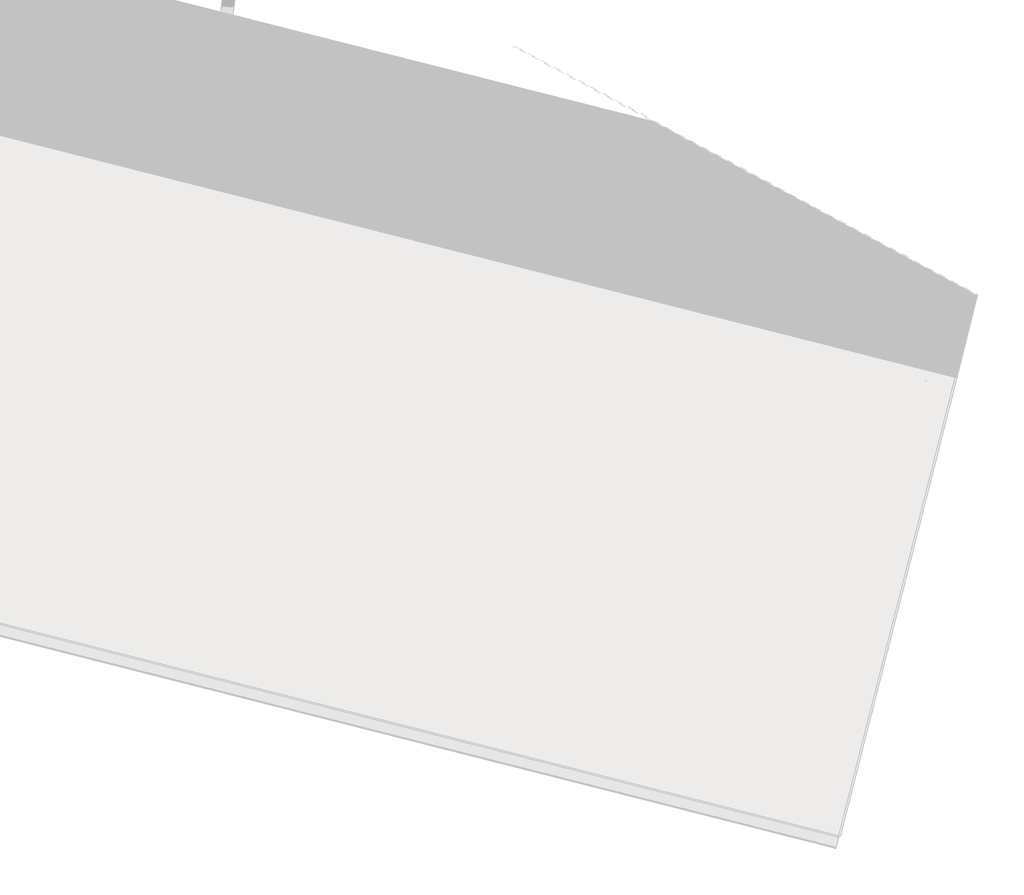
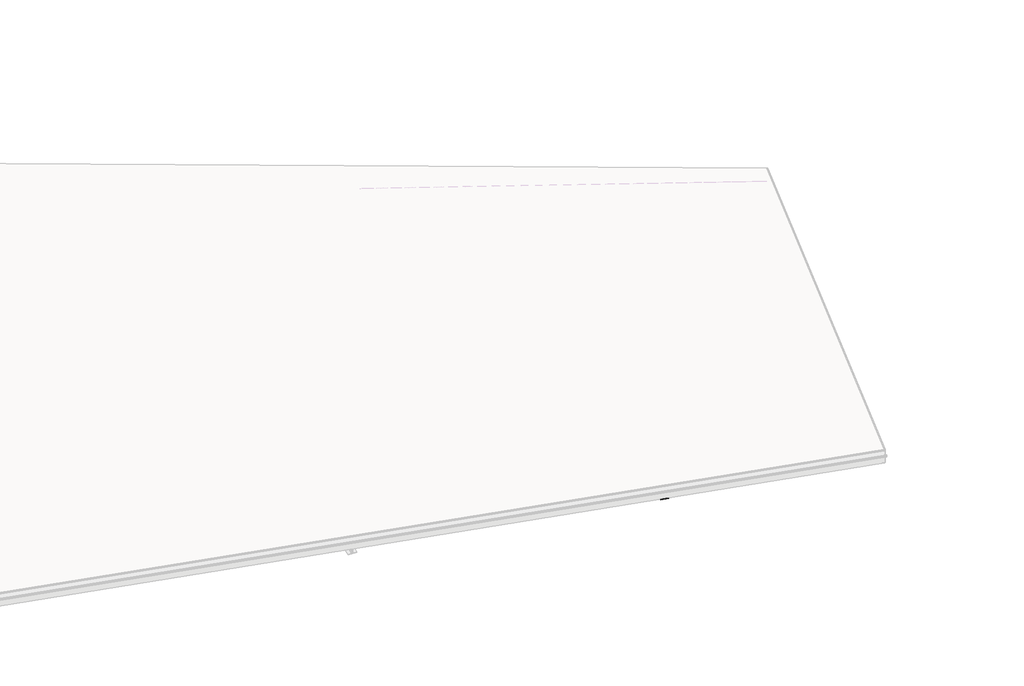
# One storey, part 2 of 10: 6 beams.
"""IFC4 building model written with IfcOpenShell, lengths in millimetres."""

from ifc_helpers import new_model, si_unit, frame, origin, place, context, project, spatial, polyline, circle_curve, ellipse_curve, transform, mapped, element, save
from ifc_brep_helpers import plane_surface, cylinder_surface, revolved_surface, advanced_brep
from components import ipe_ipe360_f2bb99bb

model = new_model("IFC4")

# Units and contexts
model_context = context("Model", 3, world=origin())
ifc_project = project(units=[si_unit("LENGTHUNIT", "METRE", prefix="MILLI")], contexts=[model_context])

# Site, building, storey
site = spatial("IfcSite", under=ifc_project)
building = spatial("IfcBuilding", under=site)
storey = spatial("IfcBuildingStorey", under=building, Name="2 Toiture batiment", Elevation=872910.0)

# Beams
placement = place(None, origin())
element("IfcBeam", 1, ObjectType="IPE : IPE160", at=placement, inside=storey, context=model_context, shape_type="AdvancedBrep", body=[
    advanced_brep(
    [(50448.961994, -4098.9737725, 872985.9251043), (50449.1844592, -4098.099809, 872978.5802627), (50469.2640739, -4019.2268522, 872988.5735489), (50469.0416088, -4020.1008158, 872995.9183904), (50461.8178449, -4048.4758429, 872992.3232448), (50459.3434191, -4058.1955595, 873000.1593361), (50455.5194237, -4073.2182842, 873126.4112065), (50457.4527181, -4065.6244249, 873136.440946), (50464.676482, -4037.2493977, 873140.0360916), (50464.4540168, -4038.1233613, 873147.3809332), (50444.3744021, -4116.996318, 873137.387647), (50444.5968672, -4116.1223545, 873130.0428055), (50451.8206311, -4087.7473274, 873133.6379511), (50454.2950569, -4078.0276108, 873125.8018598), (50458.1190523, -4063.0048861, 872999.5499893), (50456.1857579, -4070.5987454, 872989.5202499), (46577.9110009, -3083.2627786, 872989.5358662), (46570.6872506, -3111.6378092, 872985.9407206), (46579.8442574, -3075.6689096, 872999.5656057), (46654.5159842, -3110.675172, 873125.8171601), (46655.0447687, -3108.5980964, 873108.3611521), (46576.5485784, -3088.6144001, 873108.3611567), (46652.0415287, -3120.394881, 873133.6532514), (46644.8177785, -3148.7699116, 873130.0581057), (46644.5952855, -3149.6438681, 873137.4029473), (46664.6748625, -3070.7709018, 873147.3962334), (46664.8973554, -3069.8969453, 873140.0513919), (46657.6736052, -3098.2719759, 873136.4562463), (46655.7403487, -3105.8658448, 873126.4265068), (46581.0686218, -3070.8595824, 873000.1749524), (46577.7732293, -3083.8039477, 873108.9610475), (46656.2694196, -3103.787644, 873108.9610428), (46583.5430773, -3061.1398734, 872992.3388611), (46590.7668276, -3032.7648428, 872995.9340068), (46590.9893205, -3031.8908863, 872988.5891652), (46570.9097435, -3110.7638527, 872978.5958791)],
    [
        (0, 1),
        (1, 2),
        (2, 3),
        (3, 4),
        (4, 5, circle_curve(frame((50461.5472792, -4049.5387715, 873001.2561601), z_axis=(-0.9690888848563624, 0.24671184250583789, 3.9021536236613e-06), x_axis=(0.24487335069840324, 0.9618653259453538, 0.12186934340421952)), 9.0)),
        (5, 6),
        (6, 7, circle_curve(frame((50457.7232838, -4064.5614962, 873127.5080306), z_axis=(-0.9690888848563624, 0.24671184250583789, 3.9021536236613e-06), x_axis=(0.24487335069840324, 0.9618653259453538, 0.12186934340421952)), 9.0)),
        (7, 8),
        (8, 9),
        (9, 10),
        (10, 11),
        (11, 12),
        (12, 13, circle_curve(frame((50452.0911968, -4086.6843987, 873124.7050357), z_axis=(-0.9690888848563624, 0.24671184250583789, 3.9021536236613e-06), x_axis=(0.24487335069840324, 0.9618653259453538, 0.12186934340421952)), 9.0)),
        (13, 14),
        (14, 15, circle_curve(frame((50455.9151922, -4071.661674, 872998.4531652), z_axis=(-0.9690888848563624, 0.24671184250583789, 3.9021536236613e-06), x_axis=(0.24487335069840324, 0.9618653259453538, 0.12186934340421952)), 9.0)),
        (15, 0),
        (15, 16),
        (16, 17),
        (17, 0),
        (14, 18),
        (18, 16, ellipse_curve(frame((46577.6404014, -3084.3256986, 872998.4687816), z_axis=(-0.9690888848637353, 0.24671184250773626, 0.0), x_axis=(1.2803195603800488e-09, 5.142616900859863e-09, -1.0)), 9.0, 9.0)),
        (13, 19),
        (19, 20),
        (20, 21),
        (21, 18),
        (12, 22),
        (22, 19, ellipse_curve(frame((46652.3121282, -3119.331961, 873124.720336), z_axis=(-0.9690888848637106, 0.24671184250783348, 0.0), x_axis=(7.596561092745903e-09, 3.006616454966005e-08, -0.9999999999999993)), 9.0, 9.0)),
        (11, 23),
        (23, 22),
        (10, 24),
        (24, 23),
        (9, 25),
        (25, 24),
        (8, 26),
        (26, 25),
        (7, 27),
        (27, 26),
        (6, 28),
        (28, 27, ellipse_curve(frame((46657.9442047, -3097.2090558, 873127.5233309), z_axis=(-0.9690888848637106, 0.24671184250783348, 0.0), x_axis=(7.596561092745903e-09, 3.006616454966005e-08, -0.9999999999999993)), 9.0, 9.0)),
        (5, 29),
        (29, 30),
        (30, 31),
        (31, 28),
        (4, 32),
        (32, 29, ellipse_curve(frame((46583.2724778, -3062.2027934, 873001.2717765), z_axis=(-0.9690888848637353, 0.24671184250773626, 0.0), x_axis=(1.2803195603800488e-09, 5.142616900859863e-09, -1.0)), 9.0, 9.0)),
        (3, 33),
        (33, 32),
        (2, 34),
        (34, 33),
        (1, 35),
        (35, 34),
        (17, 35),
        (31, 20),
        (30, 21),
    ],
    [
        plane_surface(frame((50456.819238, -4068.1115851, 873062.9805979), z_axis=(0.9690888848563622, -0.24671184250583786, -3.902153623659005e-06), x_axis=(-0.030062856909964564, -0.11810318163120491, 0.9925461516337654))),
        plane_surface(frame((46548.3792325, -3105.9586064, 872985.9408104), z_axis=(-0.03006285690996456, -0.11810318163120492, 0.9925461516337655), x_axis=(0.9690888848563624, -0.24671184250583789, -3.9021536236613e-06))),
        revolved_surface(polyline([(50458.11905235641, -4063.004886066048, 872999.5499893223), (46579.844227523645, -3075.668901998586, 872999.5656056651)]), (46555.3324306, -3078.6465079, 872998.4688714), (0.9690888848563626, -0.24671184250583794, -3.902153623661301e-06)),
        plane_surface(frame((46557.5362908, -3069.98972, 872999.5656955), z_axis=(-0.24487335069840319, -0.9618653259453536, -0.12186934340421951), x_axis=(0.9690888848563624, -0.24671184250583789, -3.9021536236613e-06))),
        revolved_surface(polyline([(50454.29505698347, -4078.0276107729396, 873125.8018598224), (46654.51595432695, -3110.6751643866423, 873125.8171600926)]), (46551.5084352, -3093.6692326, 873124.7207419), (0.9690888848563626, -0.24671184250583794, -3.902153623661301e-06)),
        plane_surface(frame((46551.2378695, -3094.7321613, 873133.6536573), z_axis=(0.03006285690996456, 0.11810318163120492, -0.9925461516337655), x_axis=(0.9690888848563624, -0.24671184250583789, -3.9021536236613e-06))),
        plane_surface(frame((46544.0141057, -3123.1071884, 873130.0585116), z_axis=(-0.24487335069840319, -0.9618653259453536, -0.12186934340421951), x_axis=(0.9690888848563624, -0.24671184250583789, -3.9021536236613e-06))),
        plane_surface(frame((46543.7916405, -3123.9811519, 873137.4033532), z_axis=(-0.03006285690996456, -0.11810318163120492, 0.9925461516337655), x_axis=(0.9690888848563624, -0.24671184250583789, -3.9021536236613e-06))),
        plane_surface(frame((46563.8712553, -3045.1081952, 873147.3966393), z_axis=(0.24487335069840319, 0.9618653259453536, 0.12186934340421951), x_axis=(0.9690888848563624, -0.24671184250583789, -3.9021536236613e-06))),
        plane_surface(frame((46564.0937204, -3044.2342317, 873140.0517978), z_axis=(0.03006285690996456, 0.11810318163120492, -0.9925461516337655), x_axis=(0.9690888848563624, -0.24671184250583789, -3.9021536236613e-06))),
        revolved_surface(polyline([(50459.92714403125, -4055.9047082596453, 873128.6048547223), (46660.148030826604, -3088.552259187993, 873128.6201549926)]), (46557.1405223, -3071.5463301, 873127.5237368), (0.9690888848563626, -0.24671184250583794, -3.902153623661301e-06)),
        plane_surface(frame((46554.9366621, -3080.2031181, 873126.4269127), z_axis=(0.24487335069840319, 0.9618653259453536, 0.12186934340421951), x_axis=(0.9690888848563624, -0.24671184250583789, -3.9021536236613e-06))),
        revolved_surface(polyline([(50463.751139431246, -4040.8819835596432, 873002.3529842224), (46585.47630392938, -3053.545996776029, 873002.3686005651)]), (46560.9645177, -3056.5236054, 873001.2718663), (0.9690888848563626, -0.24671184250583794, -3.902153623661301e-06)),
        plane_surface(frame((46561.2350834, -3055.4606768, 872992.338951), z_axis=(-0.03006285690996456, -0.11810318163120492, 0.9925461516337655), x_axis=(0.9690888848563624, -0.24671184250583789, -3.9021536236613e-06))),
        plane_surface(frame((46568.4588472, -3027.0856497, 872995.9340966), z_axis=(0.24487335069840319, 0.9618653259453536, 0.12186934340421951), x_axis=(0.9690888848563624, -0.24671184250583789, -3.9021536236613e-06))),
        plane_surface(frame((46568.6813124, -3026.2116861, 872988.5892551), z_axis=(0.03006285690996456, 0.11810318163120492, -0.9925461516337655), x_axis=(0.9690888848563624, -0.24671184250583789, -3.9021536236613e-06))),
        plane_surface(frame((46548.6016976, -3105.0846429, 872978.5959689), z_axis=(-0.24487335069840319, -0.9618653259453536, -0.12186934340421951), x_axis=(0.9690888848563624, -0.24671184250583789, -3.9021536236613e-06))),
        plane_surface(frame((48468.6494081, 4015.2759737, 874049.8321259), z_axis=(-0.9690888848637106, 0.24671184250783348, 0.0), x_axis=(-0.24492973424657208, -0.9620887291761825, -0.11997792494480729))),
        plane_surface(frame((48470.2093268, 4021.4033644, 873997.5128012), z_axis=(-0.029599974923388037, -0.1162692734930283, 0.992776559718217), x_axis=(-0.24492973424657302, -0.9620887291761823, -0.11997792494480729))),
        plane_surface(frame((48391.7131271, 4041.3870236, 873997.5128012), z_axis=(-0.9690888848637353, 0.24671184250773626, 0.0), x_axis=(-0.24492973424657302, -0.9620887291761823, -0.11997792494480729))),
    ],
    [
        (0, [[1, 2, 3, 4, 5, 6, 7, 8, 9, 10, 11, 12, 13, 14, 15, 16]]),
        (1, [[-16, 17, 18, 19]]),
        (2, [[-15, 20, 21, -17]]),
        (3, [[-14, 22, 23, 24, 25, -20]]),
        (4, [[-13, 26, 27, -22]]),
        (5, [[-12, 28, 29, -26]]),
        (6, [[-11, 30, 31, -28]]),
        (7, [[-10, 32, 33, -30]]),
        (8, [[-9, 34, 35, -32]]),
        (9, [[-8, 36, 37, -34]]),
        (10, [[-7, 38, 39, -36]]),
        (11, [[-6, 40, 41, 42, 43, -38]]),
        (12, [[-5, 44, 45, -40]]),
        (13, [[-4, 46, 47, -44]]),
        (14, [[-3, 48, 49, -46]]),
        (15, [[-2, 50, 51, -48]]),
        (16, [[-1, -19, 52, -50]]),
        (17, [[53, -23, -27, -29, -31, -33, -35, -37, -39, -43]]),
        (18, [[-53, -42, 54, -24]]),
        (19, [[-54, -41, -45, -47, -49, -51, -52, -18, -21, -25]]),
    ],
),
])
element("IfcBeam", 2, ObjectType="IPE : IPE160", at=placement, inside=storey, context=model_context, shape_type="AdvancedBrep", body=[
    advanced_brep(
    [(42826.0765121, -2158.3301929, 872985.9408231), (42833.3014433, -2129.955463, 872989.5359686), (42835.2379945, -2122.3624328, 872999.5657074), (42831.4549933, -2137.3955938, 873125.8175707), (42828.9831118, -2147.1159581, 873133.6536615), (42821.7581806, -2175.4906881, 873130.0585161), (42821.5381003, -2176.3652588, 873137.4033572), (42841.6209599, -2097.4931281, 873147.3966428), (42841.8410402, -2096.6185574, 873140.0518017), (42834.616109, -2124.9932874, 873136.4566562), (42832.6795579, -2132.5863176, 873126.4269174), (42836.4625591, -2117.5531565, 873000.1750541), (42838.9344405, -2107.8327922, 872992.3389633), (42846.1593717, -2079.4580623, 872995.9341087), (42846.379452, -2078.5834916, 872988.5892676), (42826.2965924, -2157.4556222, 872978.595982), (46524.1709841, -3099.7956407, 872984.6473301), (46531.3947344, -3071.4206101, 872988.2424759), (46533.3279909, -3063.8267412, 872998.272216), (46529.9937051, -3076.92388, 873108.3422453), (46451.498325, -3056.9370016, 873108.3426468), (46451.0073184, -3058.8656851, 873124.5515496), (46448.5328629, -3068.5853941, 873132.3876413), (46441.3091126, -3096.9604247, 873128.7924954), (46441.0866197, -3097.8343812, 873136.1373374), (46461.1661967, -3018.9614148, 873146.1306241), (46461.3886896, -3018.0874584, 873138.7857822), (46454.1649394, -3046.4624889, 873135.1906363), (46452.2316828, -3054.0563579, 873125.1608963), (46452.7229759, -3052.1265492, 873108.9425375), (46531.218356, -3072.1134276, 873108.9421361), (46534.5523553, -3059.017414, 872998.8815627), (46537.0268108, -3049.2977049, 872991.045471), (46544.2505611, -3020.9226744, 872994.6406168), (46544.473054, -3020.0487179, 872987.2957749), (46524.393477, -3098.9216842, 872977.3024882)],
    [
        (0, 1),
        (1, 2, circle_curve(frame((42833.0337782, -2131.01913, 872998.4688834), z_axis=(0.9690888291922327, -0.24671182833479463, -0.0003389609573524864), x_axis=(0.24491292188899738, 0.9618552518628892, 0.12186933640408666)), 9.0)),
        (2, 3),
        (3, 4, circle_curve(frame((42829.250777, -2146.0522911, 873124.7207466), z_axis=(0.9690888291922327, -0.24671182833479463, -0.0003389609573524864), x_axis=(0.24491292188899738, 0.9618552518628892, 0.12186933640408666)), 9.0)),
        (4, 5),
        (5, 6),
        (6, 7),
        (7, 8),
        (8, 9),
        (9, 10, circle_curve(frame((42834.8837742, -2123.9296203, 873127.5237414), z_axis=(0.9690888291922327, -0.24671182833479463, -0.0003389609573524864), x_axis=(0.24491292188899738, 0.9618552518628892, 0.12186933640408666)), 9.0)),
        (10, 11),
        (11, 12, circle_curve(frame((42838.6667754, -2108.8964592, 873001.2718781), z_axis=(0.9690888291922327, -0.24671182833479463, -0.0003389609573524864), x_axis=(0.24491292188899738, 0.9618552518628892, 0.12186933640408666)), 9.0)),
        (12, 13),
        (13, 14),
        (14, 15),
        (15, 0),
        (0, 16),
        (16, 17),
        (17, 1),
        (17, 18, ellipse_curve(frame((46531.1241349, -3072.4835302, 872997.1753918), z_axis=(0.9690888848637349, -0.24671184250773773, 0.0), x_axis=(1.6376856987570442e-11, 6.501612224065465e-11, -1.0)), 9.0000005, 9.0)),
        (18, 2),
        (18, 19),
        (19, 20),
        (20, 21),
        (21, 3),
        (21, 22, ellipse_curve(frame((46448.8034624, -3067.5224741, 873123.4547254), z_axis=(0.9690888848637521, -0.24671184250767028, 0.0), x_axis=(-3.504647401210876e-11, -1.3379892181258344e-10, -1.0)), 9.0000005, 9.0)),
        (22, 4),
        (22, 23),
        (23, 5),
        (23, 24),
        (24, 6),
        (24, 25),
        (25, 7),
        (25, 26),
        (26, 8),
        (26, 27),
        (27, 9),
        (27, 28, ellipse_curve(frame((46454.4355389, -3045.3995689, 873126.2577205), z_axis=(0.9690888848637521, -0.24671184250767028, 0.0), x_axis=(-3.504647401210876e-11, -1.3379892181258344e-10, -1.0)), 9.0000005, 9.0)),
        (28, 10),
        (28, 29),
        (29, 30),
        (30, 31),
        (31, 11),
        (31, 32, ellipse_curve(frame((46536.7562114, -3050.360625, 872999.9783869), z_axis=(0.9690888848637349, -0.24671184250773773, 0.0), x_axis=(1.6376856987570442e-11, 6.501612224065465e-11, -1.0)), 9.0000005, 9.0)),
        (32, 12),
        (32, 33),
        (33, 13),
        (33, 34),
        (34, 14),
        (34, 35),
        (35, 15),
        (35, 16),
        (30, 19),
        (29, 20),
    ],
    [
        plane_surface(frame((42833.9587762, -2127.4743752, 873062.9963124), z_axis=(-0.9690888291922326, 0.24671182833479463, 0.00033896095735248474), x_axis=(-0.0297405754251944, -0.11818522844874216, 0.9925460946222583))),
        plane_surface(frame((42826.0765121, -2158.3301929, 872985.9408231), z_axis=(-0.0297405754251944, -0.11818522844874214, 0.9925460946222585), x_axis=(0.9690888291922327, -0.24671182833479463, -0.0003389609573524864))),
        revolved_surface(polyline([(46533.33130756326, -3063.827585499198, 872998.2722148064), (42835.23799443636, -2122.3624327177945, 872999.5657074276)]), (42833.0337782, -2131.01913, 872998.4688834), (0.9690888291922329, -0.24671182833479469, -0.0003389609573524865)),
        plane_surface(frame((42835.2379945, -2122.3624328, 872999.5657074), z_axis=(-0.2449129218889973, -0.961855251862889, -0.12186933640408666), x_axis=(0.9690888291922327, -0.24671182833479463, -0.0003389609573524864))),
        revolved_surface(polyline([(46451.010635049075, -3058.8665294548, 873124.5515483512), (42831.4549932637, -2137.3955938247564, 873125.8175706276)]), (42829.250777, -2146.0522911, 873124.7207466), (0.9690888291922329, -0.24671182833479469, -0.0003389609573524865)),
        plane_surface(frame((42828.9831118, -2147.1159581, 873133.6536615), z_axis=(0.0297405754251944, 0.11818522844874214, -0.9925460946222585), x_axis=(0.9690888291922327, -0.24671182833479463, -0.0003389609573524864))),
        plane_surface(frame((42821.7581806, -2175.4906881, 873130.0585161), z_axis=(-0.2449129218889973, -0.961855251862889, -0.12186933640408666), x_axis=(0.9690888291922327, -0.24671182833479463, -0.0003389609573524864))),
        plane_surface(frame((42821.5381003, -2176.3652588, 873137.4033572), z_axis=(-0.0297405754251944, -0.11818522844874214, 0.9925460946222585), x_axis=(0.9690888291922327, -0.24671182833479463, -0.0003389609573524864))),
        plane_surface(frame((42841.6209599, -2097.4931281, 873147.3966428), z_axis=(0.2449129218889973, 0.961855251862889, 0.12186933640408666), x_axis=(0.9690888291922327, -0.24671182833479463, -0.0003389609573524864))),
        plane_surface(frame((42841.8410402, -2096.6185574, 873140.0518017), z_axis=(0.0297405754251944, 0.11818522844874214, -0.9925460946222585), x_axis=(0.9690888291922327, -0.24671182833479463, -0.0003389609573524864))),
        revolved_surface(polyline([(46456.64271154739, -3036.743624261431, 873127.3545434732), (42837.08799048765, -2115.2729230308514, 873128.6205654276)]), (42834.8837742, -2123.9296203, 873127.5237414), (0.9690888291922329, -0.24671182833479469, -0.0003389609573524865)),
        plane_surface(frame((42832.6795579, -2132.5863176, 873126.4269174), z_axis=(0.2449129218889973, 0.961855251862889, 0.12186933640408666), x_axis=(0.9690888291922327, -0.24671182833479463, -0.0003389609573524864))),
        revolved_surface(polyline([(46538.96338406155, -3041.704680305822, 873001.0752098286), (42840.87099163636, -2100.2397619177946, 873002.3687021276)]), (42838.6667754, -2108.8964592, 873001.2718781), (0.9690888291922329, -0.24671182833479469, -0.0003389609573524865)),
        plane_surface(frame((42838.9344405, -2107.8327922, 872992.3389633), z_axis=(-0.0297405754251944, -0.11818522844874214, 0.9925460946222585), x_axis=(0.9690888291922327, -0.24671182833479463, -0.0003389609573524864))),
        plane_surface(frame((42846.1593717, -2079.4580623, 872995.9341087), z_axis=(0.2449129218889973, 0.961855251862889, 0.12186933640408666), x_axis=(0.9690888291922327, -0.24671182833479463, -0.0003389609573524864))),
        plane_surface(frame((42846.379452, -2078.5834916, 872988.5892676), z_axis=(0.0297405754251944, 0.11818522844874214, -0.9925460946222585), x_axis=(0.9690888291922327, -0.24671182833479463, -0.0003389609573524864))),
        plane_surface(frame((42826.2965924, -2157.4556222, 872978.595982), z_axis=(-0.2449129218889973, -0.961855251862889, -0.12186933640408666), x_axis=(0.9690888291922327, -0.24671182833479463, -0.0003389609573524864))),
        plane_surface(frame((48353.9170133, 4087.4821201, 873705.0408267), z_axis=(0.9690888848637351, -0.24671184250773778, 0.0), x_axis=(-0.24492973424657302, -0.9620887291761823, -0.11997792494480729))),
        plane_surface(frame((48345.1968607, 4053.2291921, 873997.5128012), z_axis=(-0.02959997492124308, -0.11626927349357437, 0.992776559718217), x_axis=(-0.24492973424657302, -0.9620887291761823, -0.11997792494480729))),
        plane_surface(frame((48266.700661, 4073.2128513, 873997.5128012), z_axis=(0.9690888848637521, -0.24671184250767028, 0.0), x_axis=(-0.24492973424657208, -0.9620887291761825, -0.11997792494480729))),
    ],
    [
        (0, [[1, 2, 3, 4, 5, 6, 7, 8, 9, 10, 11, 12, 13, 14, 15, 16]]),
        (1, [[-1, 17, 18, 19]]),
        (2, [[-2, -19, 20, 21]]),
        (3, [[-3, -21, 22, 23, 24, 25]]),
        (4, [[-4, -25, 26, 27]]),
        (5, [[-5, -27, 28, 29]]),
        (6, [[-6, -29, 30, 31]]),
        (7, [[-7, -31, 32, 33]]),
        (8, [[-8, -33, 34, 35]]),
        (9, [[-9, -35, 36, 37]]),
        (10, [[-10, -37, 38, 39]]),
        (11, [[-11, -39, 40, 41, 42, 43]]),
        (12, [[-12, -43, 44, 45]]),
        (13, [[-13, -45, 46, 47]]),
        (14, [[-14, -47, 48, 49]]),
        (15, [[-15, -49, 50, 51]]),
        (16, [[-16, -51, 52, -17]]),
        (17, [[53, -22, -20, -18, -52, -50, -48, -46, -44, -42]]),
        (18, [[-53, -41, 54, -23]]),
        (19, [[-54, -40, -38, -36, -34, -32, -30, -28, -26, -24]]),
    ],
),
])
element("IfcBeam", 3, ObjectType="IPE : IPE160", at=placement, inside=storey, context=model_context, shape_type="AdvancedBrep", body=[
    advanced_brep(
    [(50805.9006943, -2694.2651411, 873160.0408142), (50806.1231872, -2693.3911846, 873152.6959727), (50826.2027642, -2614.5182183, 873162.6892588), (50825.9802712, -2615.3921747, 873170.0341003), (50818.756521, -2643.7672053, 873166.4389547), (50816.2820655, -2653.4869143, 873174.275046), (50812.4575927, -2668.5095175, 873300.5269165), (50814.3908492, -2660.9156485, 873310.5566559), (50821.6145994, -2632.540618, 873314.1518016), (50821.3921065, -2633.4145744, 873321.4966431), (50801.3125295, -2712.2875408, 873311.5033569), (50801.5350225, -2711.4135843, 873304.1585154), (50808.7587727, -2683.0385537, 873307.753661), (50811.2332282, -2673.3188447, 873299.9175698), (50815.057701, -2658.2962416, 873173.6656993), (50813.1244445, -2665.8901105, 873163.6359598), (46935.482446, -1678.7152322, 873163.6359598), (46928.2586958, -1707.0902627, 873160.0408142), (46937.4157025, -1671.1213632, 873173.6656993), (47012.0874294, -1706.1276256, 873299.9175698), (47012.5847334, -1704.174206, 873283.5007822), (46934.0885337, -1684.1905467, 873283.5007822), (47009.6129739, -1715.8473346, 873307.753661), (47002.3892236, -1744.2223652, 873304.1585154), (47002.1667307, -1745.0963217, 873311.5033569), (47022.2463077, -1666.2233553, 873321.4966431), (47022.4688006, -1665.3493989, 873314.1518016), (47015.2450504, -1693.7244294, 873310.5566559), (47013.3117938, -1701.3182984, 873300.5269165), (46938.640067, -1666.312036, 873174.275046), (46935.3131846, -1679.3800943, 873284.1006729), (47013.8093843, -1699.3637536, 873284.1006729), (46941.1145225, -1656.592327, 873166.4389547), (46948.3382727, -1628.2172964, 873170.0341003), (46948.5607657, -1627.3433399, 873162.6892588), (46928.4811887, -1706.2163063, 873152.6959727)],
    [
        (0, 1),
        (1, 2),
        (2, 3),
        (3, 4),
        (4, 5, circle_curve(frame((50818.4859215, -2644.8301254, 873175.3718701), z_axis=(-0.9690888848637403, 0.24671184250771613, 0.0), x_axis=(0.24487288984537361, 0.9618654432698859, 0.12186934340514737)), 9.0)),
        (5, 6),
        (6, 7, circle_curve(frame((50814.6614487, -2659.8527285, 873301.6237406), z_axis=(-0.9690888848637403, 0.24671184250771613, 0.0), x_axis=(0.24487288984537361, 0.9618654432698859, 0.12186934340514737)), 9.0)),
        (7, 8),
        (8, 9),
        (9, 10),
        (10, 11),
        (11, 12),
        (12, 13, circle_curve(frame((50809.0293722, -2681.9756337, 873298.8207457), z_axis=(-0.9690888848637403, 0.24671184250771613, 0.0), x_axis=(0.24487288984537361, 0.9618654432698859, 0.12186934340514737)), 9.0)),
        (13, 14),
        (14, 15, circle_curve(frame((50812.853845, -2666.9530305, 873172.5688752), z_axis=(-0.9690888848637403, 0.24671184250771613, 0.0), x_axis=(0.24487288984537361, 0.9618654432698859, 0.12186934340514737)), 9.0)),
        (15, 0),
        (15, 16),
        (16, 17),
        (17, 0),
        (14, 18),
        (18, 16, circle_curve(frame((46935.2118465, -1679.7781522, 873172.5688752), z_axis=(-0.9690888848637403, 0.24671184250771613, 0.0), x_axis=(0.24487288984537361, 0.9618654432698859, 0.12186934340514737)), 9.0)),
        (13, 19),
        (19, 20),
        (20, 21),
        (21, 18),
        (12, 22),
        (22, 19, circle_curve(frame((47009.8835734, -1714.7844146, 873298.8207457), z_axis=(-0.9690888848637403, 0.24671184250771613, 0.0), x_axis=(0.24487288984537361, 0.9618654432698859, 0.12186934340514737)), 9.0)),
        (11, 23),
        (23, 22),
        (10, 24),
        (24, 23),
        (9, 25),
        (25, 24),
        (8, 26),
        (26, 25),
        (7, 27),
        (27, 26),
        (6, 28),
        (28, 27, circle_curve(frame((47015.5156499, -1692.6615094, 873301.6237406), z_axis=(-0.9690888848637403, 0.24671184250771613, 0.0), x_axis=(0.24487288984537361, 0.9618654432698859, 0.12186934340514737)), 9.0)),
        (5, 29),
        (29, 30),
        (30, 31),
        (31, 28),
        (4, 32),
        (32, 29, circle_curve(frame((46940.843923, -1657.655247, 873175.3718701), z_axis=(-0.9690888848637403, 0.24671184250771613, 0.0), x_axis=(0.24487288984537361, 0.9618654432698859, 0.12186934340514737)), 9.0)),
        (3, 33),
        (33, 32),
        (2, 34),
        (34, 33),
        (1, 35),
        (35, 34),
        (17, 35),
        (31, 20),
        (30, 21),
    ],
    [
        plane_surface(frame((50813.7576468, -2663.4028795, 873237.0963079), z_axis=(0.9690888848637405, -0.24671184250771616, 0.0), x_axis=(-0.030066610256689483, -0.11810222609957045, 0.992546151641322))),
        plane_surface(frame((46905.3179327, -1701.249975, 873160.0408142), z_axis=(-0.03006661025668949, -0.11810222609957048, 0.9925461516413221), x_axis=(0.9690888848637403, -0.24671184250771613, 0.0))),
        revolved_surface(polyline([(50815.057701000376, -2658.296241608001, 873173.6656992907), (46937.41570248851, -1671.1213632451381, 873173.6656992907)]), (46912.2710834, -1673.9378645, 873172.5688752), (0.9690888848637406, -0.2467118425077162, 0.0)),
        plane_surface(frame((46914.4749395, -1665.2810755, 873173.6656993), z_axis=(-0.24487288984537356, -0.9618654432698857, -0.12186934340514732), x_axis=(0.9690888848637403, -0.24671184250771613, 0.0))),
        revolved_surface(polyline([(50811.23322820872, -2673.318844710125, 873299.9175697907), (47012.08742939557, -1706.1276255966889, 873299.9175697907)]), (46908.4466106, -1688.9604676, 873298.8207457), (0.9690888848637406, -0.2467118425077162, 0.0)),
        plane_surface(frame((46908.1760111, -1690.0233876, 873307.753661), z_axis=(0.03006661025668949, 0.11810222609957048, -0.9925461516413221), x_axis=(0.9690888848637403, -0.24671184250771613, 0.0))),
        plane_surface(frame((46900.9522609, -1718.3984182, 873304.1585154), z_axis=(-0.24487288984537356, -0.9618654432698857, -0.12186934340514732), x_axis=(0.9690888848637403, -0.24671184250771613, 0.0))),
        plane_surface(frame((46900.729768, -1719.2723747, 873311.5033569), z_axis=(-0.03006661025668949, -0.11810222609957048, 0.9925461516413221), x_axis=(0.9690888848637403, -0.24671184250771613, 0.0))),
        plane_surface(frame((46920.8093449, -1640.3994084, 873321.4966431), z_axis=(0.24487288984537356, 0.9618654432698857, 0.12186934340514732), x_axis=(0.9690888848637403, -0.24671184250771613, 0.0))),
        plane_surface(frame((46921.0318378, -1639.5254519, 873314.1518016), z_axis=(0.03006661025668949, 0.11810222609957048, -0.9925461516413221), x_axis=(0.9690888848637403, -0.24671184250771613, 0.0))),
        revolved_surface(polyline([(50816.86530471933, -2651.1959395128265, 873302.7205646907), (47017.71950582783, -1684.004720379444, 873302.7205646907)]), (46914.0786871, -1666.8375624, 873301.6237406), (0.9690888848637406, -0.2467118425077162, 0.0)),
        plane_surface(frame((46911.8748311, -1675.4943514, 873300.5269165), z_axis=(0.24487288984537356, 0.9618654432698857, 0.12186934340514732), x_axis=(0.9690888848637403, -0.24671184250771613, 0.0))),
        revolved_surface(polyline([(50820.68977750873, -2636.173336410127, 873176.4686941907), (46943.04777899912, -1648.9984580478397, 873176.4686941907)]), (46917.9031599, -1651.8149593, 873175.3718701), (0.9690888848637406, -0.2467118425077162, 0.0)),
        plane_surface(frame((46918.1737594, -1650.7520392, 873166.4389547), z_axis=(-0.03006661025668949, -0.11810222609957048, 0.9925461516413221), x_axis=(0.9690888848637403, -0.24671184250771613, 0.0))),
        plane_surface(frame((46925.3975097, -1622.3770086, 873170.0341003), z_axis=(0.24487288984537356, 0.9618654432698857, 0.12186934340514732), x_axis=(0.9690888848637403, -0.24671184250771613, 0.0))),
        plane_surface(frame((46925.6200026, -1621.5030522, 873162.6892588), z_axis=(0.03006661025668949, 0.11810222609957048, -0.9925461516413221), x_axis=(0.9690888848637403, -0.24671184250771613, 0.0))),
        plane_surface(frame((46905.5404256, -1700.3760185, 873152.6959727), z_axis=(-0.24487288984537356, -0.9618654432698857, -0.12186934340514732), x_axis=(0.9690888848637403, -0.24671184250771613, 0.0))),
        plane_surface(frame((48468.6494081, 4015.2759737, 874049.8321259), z_axis=(-0.9690888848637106, 0.24671184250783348, 0.0), x_axis=(-0.24492973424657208, -0.9620887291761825, -0.11997792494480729))),
        plane_surface(frame((48470.2093268, 4021.4033644, 873997.5128012), z_axis=(-0.029599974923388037, -0.1162692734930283, 0.992776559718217), x_axis=(-0.24492973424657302, -0.9620887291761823, -0.11997792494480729))),
        plane_surface(frame((48391.7131271, 4041.3870236, 873997.5128012), z_axis=(-0.9690888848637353, 0.24671184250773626, 0.0), x_axis=(-0.24492973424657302, -0.9620887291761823, -0.11997792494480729))),
    ],
    [
        (0, [[1, 2, 3, 4, 5, 6, 7, 8, 9, 10, 11, 12, 13, 14, 15, 16]]),
        (1, [[-16, 17, 18, 19]]),
        (2, [[-15, 20, 21, -17]]),
        (3, [[-14, 22, 23, 24, 25, -20]]),
        (4, [[-13, 26, 27, -22]]),
        (5, [[-12, 28, 29, -26]]),
        (6, [[-11, 30, 31, -28]]),
        (7, [[-10, 32, 33, -30]]),
        (8, [[-9, 34, 35, -32]]),
        (9, [[-8, 36, 37, -34]]),
        (10, [[-7, 38, 39, -36]]),
        (11, [[-6, 40, 41, 42, 43, -38]]),
        (12, [[-5, 44, 45, -40]]),
        (13, [[-4, 46, 47, -44]]),
        (14, [[-3, 48, 49, -46]]),
        (15, [[-2, 50, 51, -48]]),
        (16, [[-1, -19, 52, -50]]),
        (17, [[53, -23, -27, -29, -31, -33, -35, -37, -39, -43]]),
        (18, [[-53, -42, 54, -24]]),
        (19, [[-54, -41, -45, -47, -49, -51, -52, -18, -21, -25]]),
    ],
),
])
element("IfcBeam", 4, ObjectType="IPE : IPE160", at=placement, inside=storey, context=model_context, shape_type="AdvancedBrep", body=[
    advanced_brep(
    [(43179.0602382, -751.9424447, 873160.0408123), (43186.2841405, -723.5674529, 873163.6359579), (43188.2178213, -715.9736919, 873173.6656974), (43184.3986888, -730.9976546, 873299.9175678), (43181.9245648, -740.717448, 873307.753659), (43174.7006625, -769.0924399, 873304.1585134), (43174.4784803, -769.9664755, 873311.5033549), (43194.5584799, -691.0936167, 873321.4966411), (43194.7806622, -690.2195812, 873314.1517996), (43187.5567598, -718.594573, 873310.5566539), (43185.6230791, -726.188334, 873300.5269145), (43189.4422115, -711.1643713, 873174.2750441), (43191.9163356, -701.4445779, 873166.4389528), (43199.1402379, -673.069586, 873170.0340985), (43199.3624201, -672.1955504, 873162.689257), (43179.2824205, -751.0684092, 873152.6959708), (46881.9031558, -1694.6167577, 873159.8740334), (46889.126906, -1666.2417271, 873163.469179), (46891.0601625, -1658.6478581, 873173.4989185), (46887.7256653, -1671.7458278, 873283.5759237), (46809.2295711, -1651.761754, 873283.5759754), (46808.73949, -1653.686802, 873299.7543246), (46806.2650345, -1663.4065111, 873307.5904159), (46799.0412843, -1691.7815416, 873303.9952703), (46798.8187914, -1692.6554981, 873311.3401118), (46818.8983683, -1613.7825318, 873321.333398), (46819.1208612, -1612.9085753, 873313.9885564), (46811.897111, -1641.2836059, 873310.3934108), (46809.9638545, -1648.8774748, 873300.3636713), (46810.454222, -1646.9513016, 873284.1758661), (46888.9503162, -1666.9353754, 873284.1758144), (46892.284527, -1653.8385309, 873174.1082652), (46894.7589825, -1644.1188219, 873166.2721739), (46901.9827327, -1615.7437913, 873169.8673195), (46902.2052256, -1614.8698348, 873162.522478), (46882.1256487, -1693.7428012, 873152.5291918)],
    [
        (0, 1),
        (1, 2, circle_curve(frame((43186.0139189, -724.6304691, 873172.5688733), z_axis=(0.9690888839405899, -0.24671184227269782, -4.3648522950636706e-05), x_axis=(0.2448780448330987, 0.9618641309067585, 0.12186934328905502)), 9.0)),
        (2, 3),
        (3, 4, circle_curve(frame((43182.1947864, -739.6544318, 873298.8207437), z_axis=(0.9690888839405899, -0.24671184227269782, -4.3648522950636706e-05), x_axis=(0.2448780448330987, 0.9618641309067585, 0.12186934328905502)), 9.0)),
        (4, 5),
        (5, 6),
        (6, 7),
        (7, 8),
        (8, 9),
        (9, 10, circle_curve(frame((43187.8269815, -717.5315568, 873301.6237386), z_axis=(0.9690888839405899, -0.24671184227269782, -4.3648522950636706e-05), x_axis=(0.2448780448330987, 0.9618641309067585, 0.12186934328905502)), 9.0)),
        (10, 11),
        (11, 12, circle_curve(frame((43191.6461139, -702.5075941, 873175.3718682), z_axis=(0.9690888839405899, -0.24671184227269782, -4.3648522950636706e-05), x_axis=(0.2448780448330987, 0.9618641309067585, 0.12186934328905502)), 9.0)),
        (12, 13),
        (13, 14),
        (14, 15),
        (15, 0),
        (0, 16),
        (16, 17),
        (17, 1),
        (17, 18, ellipse_curve(frame((46888.8563065, -1667.3046471, 873172.4020944), z_axis=(0.9690888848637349, -0.24671184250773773, 0.0), x_axis=(1.3480827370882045e-10, 5.277871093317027e-10, -1.0)), 9.0, 9.0)),
        (18, 2),
        (18, 19),
        (19, 20),
        (20, 21),
        (21, 3),
        (21, 22, ellipse_curve(frame((46806.535634, -1662.343591, 873298.6575005), z_axis=(0.9690888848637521, -0.24671184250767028, 0.0), x_axis=(-2.5944234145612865e-10, -1.017420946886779e-09, -0.9999999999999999)), 9.0, 9.0)),
        (22, 4),
        (22, 23),
        (23, 5),
        (23, 24),
        (24, 6),
        (24, 25),
        (25, 7),
        (25, 26),
        (26, 8),
        (26, 27),
        (27, 9),
        (27, 28, ellipse_curve(frame((46812.1677105, -1640.2206858, 873301.4604954), z_axis=(0.9690888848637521, -0.24671184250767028, 0.0), x_axis=(-2.5944234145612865e-10, -1.017420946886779e-09, -0.9999999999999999)), 9.0, 9.0)),
        (28, 10),
        (28, 29),
        (29, 30),
        (30, 31),
        (31, 11),
        (31, 32, ellipse_curve(frame((46894.488383, -1645.1817419, 873175.2050893), z_axis=(0.9690888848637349, -0.24671184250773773, 0.0), x_axis=(1.3480827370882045e-10, 5.277871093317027e-10, -1.0)), 9.0, 9.0)),
        (32, 12),
        (32, 33),
        (33, 13),
        (33, 34),
        (34, 14),
        (34, 35),
        (35, 15),
        (35, 16),
        (30, 19),
        (29, 20),
    ],
    [
        plane_surface(frame((43186.9204502, -721.081013, 873237.0963059), z_axis=(-0.9690888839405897, 0.24671184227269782, 4.364852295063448e-05), x_axis=(-0.030024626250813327, -0.11811291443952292, 0.9925461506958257))),
        plane_surface(frame((43179.0602382, -751.9424447, 873160.0408123), z_axis=(-0.03002462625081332, -0.11811291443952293, 0.9925461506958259), x_axis=(0.9690888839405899, -0.24671184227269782, -4.3648522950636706e-05))),
        revolved_surface(polyline([(46891.060589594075, -1658.6479668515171, 873173.4989184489), (43188.21782127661, -715.9736919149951, 873173.6656973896)]), (43186.0139189, -724.6304691, 873172.5688733), (0.9690888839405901, -0.24671184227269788, -4.364852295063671e-05)),
        plane_surface(frame((43188.2178213, -715.9736919, 873173.6656974), z_axis=(-0.24487804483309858, -0.9618641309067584, -0.12186934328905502), x_axis=(0.9690888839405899, -0.24671184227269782, -4.3648522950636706e-05))),
        revolved_surface(polyline([(46808.73991709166, -1653.6869107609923, 873299.7543246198), (43184.39868879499, -730.9976546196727, 873299.9175677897)]), (43182.1947864, -739.6544318, 873298.8207437), (0.9690888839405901, -0.24671184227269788, -4.364852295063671e-05)),
        plane_surface(frame((43181.9245648, -740.717448, 873307.753659), z_axis=(0.03002462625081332, 0.11811291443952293, -0.9925461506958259), x_axis=(0.9690888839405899, -0.24671184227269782, -4.3648522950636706e-05))),
        plane_surface(frame((43174.7006625, -769.0924399, 873304.1585134), z_axis=(-0.24487804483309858, -0.9618641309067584, -0.12186934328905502), x_axis=(0.9690888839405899, -0.24671184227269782, -4.3648522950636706e-05))),
        plane_surface(frame((43174.4784803, -769.9664755, 873311.5033549), z_axis=(-0.03002462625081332, -0.11811291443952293, 0.9925461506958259), x_axis=(0.9690888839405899, -0.24671184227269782, -4.3648522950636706e-05))),
        plane_surface(frame((43194.5584799, -691.0936167, 873321.4966411), z_axis=(0.24487804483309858, 0.9618641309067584, 0.12186934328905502), x_axis=(0.9690888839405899, -0.24671184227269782, -4.3648522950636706e-05))),
        plane_surface(frame((43194.7806622, -690.2195812, 873314.1517996), z_axis=(0.03002462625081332, 0.11811291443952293, -0.9925461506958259), x_axis=(0.9690888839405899, -0.24671184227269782, -4.3648522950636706e-05))),
        revolved_surface(polyline([(46814.371993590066, -1631.5640055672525, 873302.5573195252), (43190.03088383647, -708.8747796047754, 873302.7205626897)]), (43187.8269815, -717.5315568, 873301.6237386), (0.9690888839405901, -0.24671184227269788, -4.364852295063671e-05)),
        plane_surface(frame((43185.6230791, -726.188334, 873300.5269145), z_axis=(0.24487804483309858, 0.9618641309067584, 0.12186934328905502), x_axis=(0.9690888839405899, -0.24671184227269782, -4.3648522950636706e-05))),
        revolved_surface(polyline([(46896.692666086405, -1636.5250616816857, 873176.3019133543), (43193.8500163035, -693.8508169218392, 873176.4686922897)]), (43191.6461139, -702.5075941, 873175.3718682), (0.9690888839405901, -0.24671184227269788, -4.364852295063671e-05)),
        plane_surface(frame((43191.9163356, -701.4445779, 873166.4389528), z_axis=(-0.03002462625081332, -0.11811291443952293, 0.9925461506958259), x_axis=(0.9690888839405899, -0.24671184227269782, -4.3648522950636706e-05))),
        plane_surface(frame((43199.1402379, -673.069586, 873170.0340985), z_axis=(0.24487804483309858, 0.9618641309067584, 0.12186934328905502), x_axis=(0.9690888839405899, -0.24671184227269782, -4.3648522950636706e-05))),
        plane_surface(frame((43199.3624201, -672.1955504, 873162.689257), z_axis=(0.03002462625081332, 0.11811291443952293, -0.9925461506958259), x_axis=(0.9690888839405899, -0.24671184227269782, -4.3648522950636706e-05))),
        plane_surface(frame((43179.2824205, -751.0684092, 873152.6959708), z_axis=(-0.24487804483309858, -0.9618641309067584, -0.12186934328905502), x_axis=(0.9690888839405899, -0.24671184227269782, -4.3648522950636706e-05))),
        plane_surface(frame((48353.9170133, 4087.4821201, 873705.0408267), z_axis=(0.9690888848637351, -0.24671184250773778, 0.0), x_axis=(-0.24492973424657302, -0.9620887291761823, -0.11997792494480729))),
        plane_surface(frame((48345.1968607, 4053.2291921, 873997.5128012), z_axis=(-0.02959997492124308, -0.11626927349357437, 0.992776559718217), x_axis=(-0.24492973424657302, -0.9620887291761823, -0.11997792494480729))),
        plane_surface(frame((48266.700661, 4073.2128513, 873997.5128012), z_axis=(0.9690888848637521, -0.24671184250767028, 0.0), x_axis=(-0.24492973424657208, -0.9620887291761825, -0.11997792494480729))),
    ],
    [
        (0, [[1, 2, 3, 4, 5, 6, 7, 8, 9, 10, 11, 12, 13, 14, 15, 16]]),
        (1, [[-1, 17, 18, 19]]),
        (2, [[-2, -19, 20, 21]]),
        (3, [[-3, -21, 22, 23, 24, 25]]),
        (4, [[-4, -25, 26, 27]]),
        (5, [[-5, -27, 28, 29]]),
        (6, [[-6, -29, 30, 31]]),
        (7, [[-7, -31, 32, 33]]),
        (8, [[-8, -33, 34, 35]]),
        (9, [[-9, -35, 36, 37]]),
        (10, [[-10, -37, 38, 39]]),
        (11, [[-11, -39, 40, 41, 42, 43]]),
        (12, [[-12, -43, 44, 45]]),
        (13, [[-13, -45, 46, 47]]),
        (14, [[-14, -47, 48, 49]]),
        (15, [[-15, -49, 50, 51]]),
        (16, [[-16, -51, 52, -17]]),
        (17, [[53, -22, -20, -18, -52, -50, -48, -46, -44, -42]]),
        (18, [[-53, -41, 54, -23]]),
        (19, [[-54, -40, -38, -36, -34, -32, -30, -28, -26, -24]]),
    ],
),
])
element("IfcBeam", 5, ObjectType="IPE : IPE160", at=placement, inside=storey, context=model_context, shape_type="AdvancedBrep", body=[
    advanced_brep(
    [(43001.3198391, -704.4336723, 873160.0408142), (43001.542332, -703.5597159, 873152.6959727), (43021.6219089, -624.6867495, 873162.6892588), (43021.399416, -625.560706, 873170.0341003), (43014.1756658, -653.9357366, 873166.4389547), (43011.7012103, -663.6554456, 873174.275046), (43007.8767375, -678.6780487, 873300.5269165), (43009.809994, -671.0841798, 873310.5566559), (43017.0337442, -642.7091492, 873314.1518016), (43016.8112513, -643.5831057, 873321.4966431), (42996.7316743, -722.456072, 873311.5033569), (42996.9541673, -721.5821156, 873304.1585154), (43004.1779175, -693.207085, 873307.753661), (43006.652373, -683.487376, 873299.9175698), (43010.4768458, -668.4647728, 873173.6656993), (43008.5435893, -676.0586418, 873163.6359598), (40230.0378487, 31.2967736, 873163.6359598), (40226.9449804, 1.870098, 873160.0408142), (40230.8655777, 39.1720891, 873173.6656993), (40317.6593134, 1.0797908, 873299.9175698), (40317.9065224, 3.4318274, 873280.8571774), (40230.434997, 25.5086152, 873282.3711422), (40229.4683439, 25.8782978, 873281.395689), (40316.5998686, -9.0001534, 873307.753661), (40313.5070004, -38.426829, 873304.1585154), (40313.4117394, -39.3331764, 873311.5033569), (40322.0088647, 42.4630067, 873321.4966431), (40322.1041256, 43.369354, 873314.1518016), (40319.0112574, 13.9426784, 873310.5566559), (40318.1835284, 6.0673629, 873300.5269165), (40231.3897926, 44.1596613, 873174.275046), (40229.9927731, 30.8679079, 873281.9885206), (40230.9594261, 30.4982253, 873282.9639737), (40318.4309516, 8.4214375, 873281.4500089), (40232.4492374, 54.2396055, 873166.4389547), (40235.5421057, 83.6662811, 873170.0341003), (40235.6373666, 84.5726284, 873162.6892588), (40227.0402414, 2.7764454, 873152.6959727)],
    [
        (0, 1),
        (1, 2),
        (2, 3),
        (3, 4),
        (4, 5, circle_curve(frame((43013.9050663, -654.9986566, 873175.3718701), z_axis=(-0.9690888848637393, 0.24671184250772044, 0.0), x_axis=(0.2448728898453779, 0.9618654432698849, 0.12186934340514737)), 9.0)),
        (5, 6),
        (6, 7, circle_curve(frame((43010.0805935, -670.0212598, 873301.6237406), z_axis=(-0.9690888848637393, 0.24671184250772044, 0.0), x_axis=(0.2448728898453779, 0.9618654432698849, 0.12186934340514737)), 9.0)),
        (7, 8),
        (8, 9),
        (9, 10),
        (10, 11),
        (11, 12),
        (12, 13, circle_curve(frame((43004.448517, -692.144165, 873298.8207457), z_axis=(-0.9690888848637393, 0.24671184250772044, 0.0), x_axis=(0.2448728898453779, 0.9618654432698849, 0.12186934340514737)), 9.0)),
        (13, 14),
        (14, 15, circle_curve(frame((43008.2729898, -677.1215618, 873172.5688752), z_axis=(-0.9690888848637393, 0.24671184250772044, 0.0), x_axis=(0.2448728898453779, 0.9618654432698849, 0.12186934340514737)), 9.0)),
        (15, 0),
        (15, 16),
        (16, 17),
        (17, 0),
        (14, 18),
        (18, 16, ellipse_curve(frame((40229.9219907, 30.1944593, 873172.5688752), z_axis=(-0.9945218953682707, 0.10452846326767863, 0.0), x_axis=(-0.10452846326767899, -0.9945218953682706, 0.0)), 9.0948729, 9.0)),
        (13, 19),
        (19, 20),
        (20, 21),
        (21, 22, ellipse_curve(frame((40230.4478683, 25.6310774, 873281.3787353), z_axis=(-0.2448728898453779, -0.9618654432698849, -0.12186934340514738), x_axis=(0.9681402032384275, -0.24936462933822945, 0.02284356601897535)), 1.0103996, 1.0)),
        (22, 18),
        (12, 23),
        (23, 19, ellipse_curve(frame((40316.7157265, -7.8978391, 873298.8207457), z_axis=(-0.9945218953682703, 0.10452846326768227, 0.0), x_axis=(-0.10452846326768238, -0.9945218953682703, 0.0)), 9.0948729, 9.0)),
        (11, 24),
        (24, 23),
        (10, 25),
        (25, 24),
        (9, 26),
        (26, 25),
        (8, 27),
        (27, 26),
        (7, 28),
        (28, 27),
        (6, 29),
        (29, 28, ellipse_curve(frame((40319.1271153, 15.0449927, 873301.6237406), z_axis=(-0.9945218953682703, 0.10452846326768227, 0.0), x_axis=(-0.10452846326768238, -0.9945218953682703, 0.0)), 9.0948729, 9.0)),
        (5, 30),
        (30, 31),
        (31, 32, ellipse_curve(frame((40230.9722974, 30.6206875, 873281.9715669), z_axis=(0.2448728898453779, 0.9618654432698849, 0.12186934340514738), x_axis=(0.9681402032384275, -0.24936462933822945, 0.02284356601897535)), 1.0103996, 1.0)),
        (32, 33),
        (33, 29),
        (4, 34),
        (34, 30, ellipse_curve(frame((40232.3333795, 53.1372911, 873175.3718701), z_axis=(-0.9945218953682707, 0.10452846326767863, 0.0), x_axis=(-0.10452846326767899, -0.9945218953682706, 0.0)), 9.0948729, 9.0)),
        (3, 35),
        (35, 34),
        (2, 36),
        (36, 35),
        (1, 37),
        (37, 36),
        (17, 37),
        (33, 20),
        (32, 21),
        (31, 22),
    ],
    [
        plane_surface(frame((43009.1767916, -673.5714108, 873237.0963079), z_axis=(0.9690888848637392, -0.2467118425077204, 0.0), x_axis=(-0.030066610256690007, -0.11810222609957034, 0.992546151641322))),
        plane_surface(frame((40199.6838729, 8.8102644, 873160.0408142), z_axis=(-0.030066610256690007, -0.11810222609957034, 0.9925461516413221), x_axis=(0.9690888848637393, -0.24671184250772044, 0.0))),
        revolved_surface(polyline([(43010.47684582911, -668.4647727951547, 873173.6656992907), (40230.856113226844, 39.17449861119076, 873173.6656992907)]), (40206.6370237, 36.1223749, 873172.5688752), (0.9690888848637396, -0.2467118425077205, 0.0)),
        plane_surface(frame((40208.8408797, 44.7791639, 873173.6656993), z_axis=(-0.24487288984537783, -0.9618654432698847, -0.12186934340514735), x_axis=(0.9690888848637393, -0.24671184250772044, 0.0))),
        revolved_surface(polyline([(43006.65237301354, -683.4873759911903, 873299.9175697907), (40317.649849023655, 1.0822001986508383, 873299.9175697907)]), (40202.8125509, 21.0997717, 873298.8207457), (0.9690888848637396, -0.2467118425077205, 0.0)),
        plane_surface(frame((40202.5419514, 20.0368517, 873307.753661), z_axis=(0.030066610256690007, 0.11810222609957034, -0.9925461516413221), x_axis=(0.9690888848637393, -0.24671184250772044, 0.0))),
        plane_surface(frame((40195.3182011, -8.3381789, 873304.1585154), z_axis=(-0.24487288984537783, -0.9618654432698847, -0.12186934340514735), x_axis=(0.9690888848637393, -0.24671184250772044, 0.0))),
        plane_surface(frame((40195.0957082, -9.2121353, 873311.5033569), z_axis=(-0.030066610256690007, -0.11810222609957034, 0.9925461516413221), x_axis=(0.9690888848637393, -0.24671184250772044, 0.0))),
        plane_surface(frame((40215.1752852, 69.660831, 873321.4966431), z_axis=(0.24487288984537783, 0.9618654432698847, 0.12186934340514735), x_axis=(0.9690888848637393, -0.24671184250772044, 0.0))),
        plane_surface(frame((40215.3977781, 70.5347875, 873314.1518016), z_axis=(0.030066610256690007, 0.11810222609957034, -0.9925461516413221), x_axis=(0.9690888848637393, -0.24671184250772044, 0.0))),
        revolved_surface(polyline([(43012.28444950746, -661.3644708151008, 873302.7205646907), (40320.06123782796, 24.025032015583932, 873302.7205646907)]), (40208.4446273, 43.2226769, 873301.6237406), (0.9690888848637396, -0.2467118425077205, 0.0)),
        plane_surface(frame((40206.2407713, 34.5658879, 873300.5269165), z_axis=(0.24487288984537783, 0.9618654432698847, 0.12186934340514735), x_axis=(0.9690888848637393, -0.24671184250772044, 0.0))),
        revolved_surface(polyline([(43016.10892232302, -646.3418676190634, 873176.4686941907), (40233.26750203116, 62.11733042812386, 873176.4686941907)]), (40212.2691001, 58.2452801, 873175.3718701), (0.9690888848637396, -0.2467118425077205, 0.0)),
        plane_surface(frame((40212.5396996, 59.3082001, 873166.4389547), z_axis=(-0.030066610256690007, -0.11810222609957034, 0.9925461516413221), x_axis=(0.9690888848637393, -0.24671184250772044, 0.0))),
        plane_surface(frame((40219.7634499, 87.6832307, 873170.0341003), z_axis=(0.24487288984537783, 0.9618654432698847, 0.12186934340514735), x_axis=(0.9690888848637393, -0.24671184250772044, 0.0))),
        plane_surface(frame((40219.9859428, 88.5571872, 873162.6892588), z_axis=(0.030066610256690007, 0.11810222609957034, -0.9925461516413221), x_axis=(0.9690888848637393, -0.24671184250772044, 0.0))),
        plane_surface(frame((40199.9063658, 9.6842208, 873152.6959727), z_axis=(-0.24487288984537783, -0.9618654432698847, -0.12186934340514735), x_axis=(0.9690888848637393, -0.24671184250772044, 0.0))),
        plane_surface(frame((41151.8197628, 7937.5863197, 874278.5192899), z_axis=(-0.9945218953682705, 0.1045284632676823, 0.0), x_axis=(-0.10380628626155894, -0.9876508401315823, -0.11734595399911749))),
        plane_surface(frame((41152.489486, 7943.9583101, 874224.296516), z_axis=(-0.012265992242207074, -0.11670312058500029, 0.9930910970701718), x_axis=(-0.10380628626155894, -0.9876508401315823, -0.11734595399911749))),
        cylinder_surface(frame((40481.918996, 2418.2190365, 873565.6497603), z_axis=(-0.10380628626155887, -0.9876508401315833, -0.11734595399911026), x_axis=(-0.012265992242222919, -0.11670312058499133, 0.9930910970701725)), 1.0),
        plane_surface(frame((41062.6964248, 7953.5139334, 874223.3034249), z_axis=(-0.994521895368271, 0.10452846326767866, 0.0), x_axis=(-0.10380628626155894, -0.9876508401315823, -0.11734595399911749))),
    ],
    [
        (0, [[1, 2, 3, 4, 5, 6, 7, 8, 9, 10, 11, 12, 13, 14, 15, 16]]),
        (1, [[-16, 17, 18, 19]]),
        (2, [[-15, 20, 21, -17]]),
        (3, [[-14, 22, 23, 24, 25, 26, -20]]),
        (4, [[-13, 27, 28, -22]]),
        (5, [[-12, 29, 30, -27]]),
        (6, [[-11, 31, 32, -29]]),
        (7, [[-10, 33, 34, -31]]),
        (8, [[-9, 35, 36, -33]]),
        (9, [[-8, 37, 38, -35]]),
        (10, [[-7, 39, 40, -37]]),
        (11, [[-6, 41, 42, 43, 44, 45, -39]]),
        (12, [[-5, 46, 47, -41]]),
        (13, [[-4, 48, 49, -46]]),
        (14, [[-3, 50, 51, -48]]),
        (15, [[-2, 52, 53, -50]]),
        (16, [[-1, -19, 54, -52]]),
        (17, [[55, -23, -28, -30, -32, -34, -36, -38, -40, -45]]),
        (18, [[-55, -44, 56, -24]]),
        (19, [[-56, -43, 57, -25]]),
        (20, [[-57, -42, -47, -49, -51, -53, -54, -18, -21, -26]]),
    ],
),
])
ipe_ipe360_shape = ipe_ipe360_f2bb99bb(model_context)
element("IfcBeam", 6, ObjectType="IPE : IPE360", at=placement, inside=storey, context=model_context, shape_type="MappedRepresentation", body=[
    mapped(ipe_ipe360_shape, transform((47268.944092, -271.5919619, 873310.5496957), x_axis=(-0.24492973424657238, -0.9620887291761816, -0.11997792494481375), y_axis=(0.9690888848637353, -0.2467118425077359, 0.0), z_axis=(-0.029599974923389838, -0.11626927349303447, 0.9927765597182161))),
])

save(model, "model.ifc")
